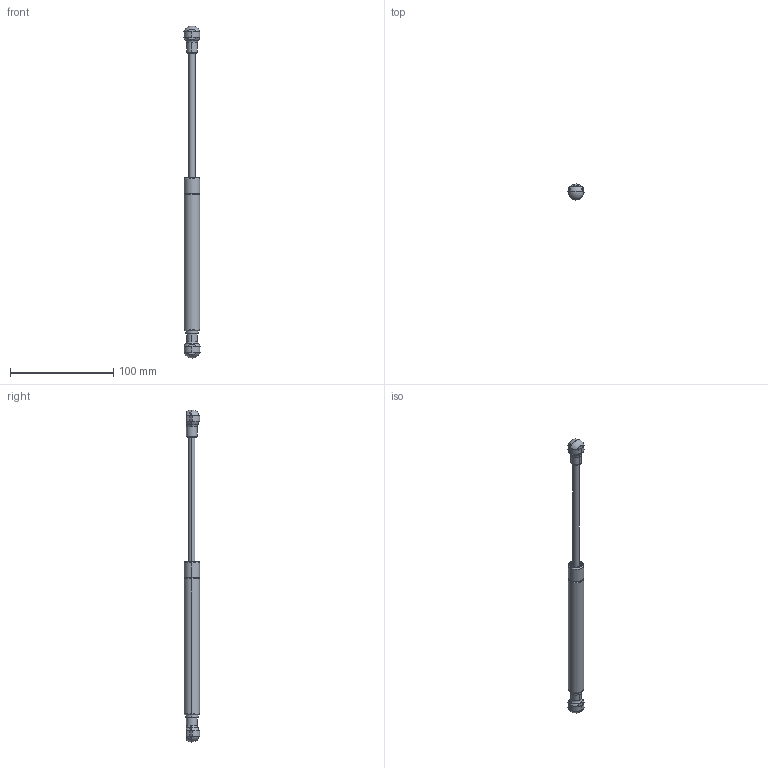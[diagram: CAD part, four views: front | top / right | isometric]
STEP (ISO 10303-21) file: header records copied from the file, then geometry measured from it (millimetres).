
FILE_DESCRIPTION (( 'STEP AP214' ), '1' );
FILE_NAME ('GS06-0425PE10.STEP', '2011-03-14T20:06:05', ( 'user' ), ( '' ), 'SwSTEP 2.0', 'SolidWorks 2011', '' );
FILE_SCHEMA (( 'AUTOMOTIVE_DESIGN' ));
Length unit declared in the file: inch
Products named in the file (5): GS06-0425PE10-NC; socket; GS06-0425PE10; GS06-0425PE10-SHAFT; GS06-0425PE10-TUBE
Assembly tree (5 placements, depth 3):
  GS06-0425PE10
    socket  x2
    GS06-0425PE10-NC
      GS06-0425PE10-TUBE
      GS06-0425PE10-SHAFT
Bounding box: 15.5 x 15.3 x 321.6 mm (x, y, z)
Volume: 30634.4 mm3; surface area: 15774.7 mm2
Topology: 4 solids, 4 shells, 185 faces, 508 edges, 334 vertices
Faces by surface type: plane 77, cylinder 68, torus 20, sphere 16, cone 4
Entity records: 4746 total; most frequent: CARTESIAN_POINT 898, DIRECTION 604, ORIENTED_EDGE 556, EDGE_CURVE 278, AXIS2_PLACEMENT_3D 250, VERTEX_POINT 181, CIRCLE 134, EDGE_LOOP 113
